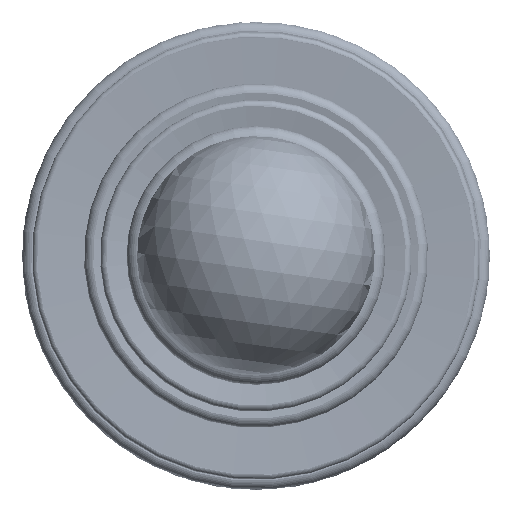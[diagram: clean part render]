
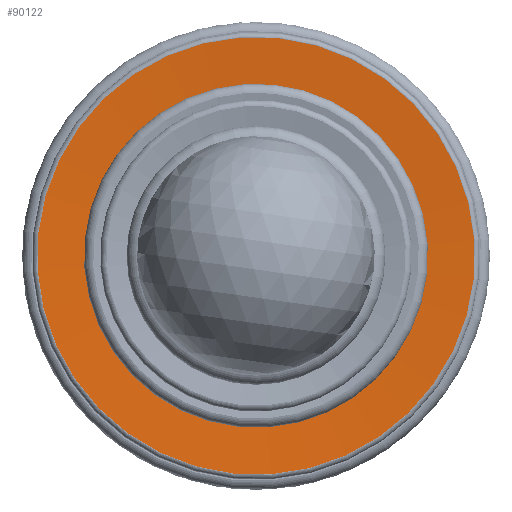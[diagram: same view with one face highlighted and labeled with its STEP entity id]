
A CAD part, top view. The second image highlights one B-rep face of the part: STEP entity #90122.
In plain terms, the highlighted conical face has half-angle 86.227 degrees and reference radius 28.341 mm.
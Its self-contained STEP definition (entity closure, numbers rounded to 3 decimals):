
#228=CONICAL_SURFACE('',#96359,28.341,1.505);
#7940=FACE_OUTER_BOUND('',#13274,.T.);
#13274=EDGE_LOOP('',(#67117,#67118,#67119,#67120,#67121,#67122));
#20166=LINE('',#145290,#27894);
#27894=VECTOR('',#109735,28.341);
#34102=CIRCLE('',#96356,24.882);
#34103=CIRCLE('',#96357,24.882);
#34105=CIRCLE('',#96360,31.801);
#34106=CIRCLE('',#96361,31.801);
#39866=VERTEX_POINT('',#145283);
#39867=VERTEX_POINT('',#145284);
#39868=VERTEX_POINT('',#145289);
#39869=VERTEX_POINT('',#145291);
#49964=EDGE_CURVE('',#39866,#39867,#34102,.T.);
#49965=EDGE_CURVE('',#39867,#39866,#34103,.T.);
#49967=EDGE_CURVE('',#39866,#39868,#20166,.T.);
#49968=EDGE_CURVE('',#39869,#39868,#34105,.T.);
#49969=EDGE_CURVE('',#39868,#39869,#34106,.T.);
#67117=ORIENTED_EDGE('',*,*,#49964,.T.);
#67118=ORIENTED_EDGE('',*,*,#49965,.T.);
#67119=ORIENTED_EDGE('',*,*,#49967,.T.);
#67120=ORIENTED_EDGE('',*,*,#49968,.F.);
#67121=ORIENTED_EDGE('',*,*,#49969,.F.);
#67122=ORIENTED_EDGE('',*,*,#49967,.F.);
#90122=ADVANCED_FACE('',(#7940),#228,.F.);
#96356=AXIS2_PLACEMENT_3D('',#145285,#109727,#109728);
#96357=AXIS2_PLACEMENT_3D('',#145286,#109729,#109730);
#96359=AXIS2_PLACEMENT_3D('',#145288,#109733,#109734);
#96360=AXIS2_PLACEMENT_3D('',#145292,#109736,#109737);
#96361=AXIS2_PLACEMENT_3D('',#145293,#109738,#109739);
#109727=DIRECTION('center_axis',(0.,0.,
-1.));
#109728=DIRECTION('ref_axis',(-0.995,0.104,0.));
#109729=DIRECTION('center_axis',(0.,0.,
-1.));
#109730=DIRECTION('ref_axis',(-0.995,0.104,0.));
#109733=DIRECTION('center_axis',(0.,0.,
1.));
#109734=DIRECTION('ref_axis',(-0.995,0.104,0.));
#109735=DIRECTION('',(0.992,-0.104,0.066));
#109736=DIRECTION('center_axis',(0.,0.,
-1.));
#109737=DIRECTION('ref_axis',(-0.995,0.104,0.));
#109738=DIRECTION('center_axis',(0.,0.,
-1.));
#109739=DIRECTION('ref_axis',(-0.995,0.104,0.));
#145283=CARTESIAN_POINT('',(24.746,-2.589,16.521));
#145284=CARTESIAN_POINT('',(2.589,24.746,16.521));
#145285=CARTESIAN_POINT('Origin',(0.,0.,
16.521));
#145286=CARTESIAN_POINT('Origin',(0.,0.,
16.521));
#145288=CARTESIAN_POINT('Origin',(0.,0.,
16.749));
#145289=CARTESIAN_POINT('',(31.629,-3.309,16.977));
#145290=CARTESIAN_POINT('',(28.188,-2.949,16.749));
#145291=CARTESIAN_POINT('',(3.309,31.629,16.977));
#145292=CARTESIAN_POINT('Origin',(0.,0.,
16.977));
#145293=CARTESIAN_POINT('Origin',(0.,0.,
16.977));
